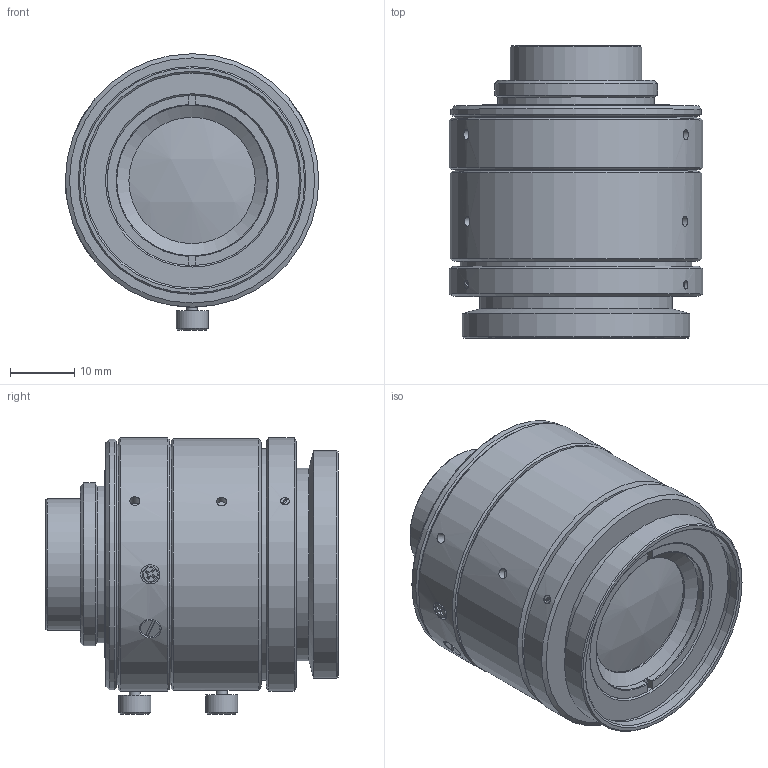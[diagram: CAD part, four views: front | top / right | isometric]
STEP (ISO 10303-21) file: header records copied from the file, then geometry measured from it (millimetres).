
FILE_DESCRIPTION( ( 'Unknown' ), '1' );
FILE_NAME( 'C:/Users/140166/Desktop/V1628-MPY_16mm.stp', 'Unknown', ( 'Unknown' ), ( 'Unknown' ), 'PSStep 17.0.49', 'Unknown', ' ' );
FILE_SCHEMA( ( 'AUTOMOTIVE_DESIGN { 1 0 10303 214 1 1 1 1 }' ) );
Length unit declared in the file: millimetre
Products named in the file (1): V1628-MPY_16mm
Bounding box: 39.53 x 45.55 x 43.1 mm (x, y, z)
Volume: 41888.9 mm3; surface area: 9384.3 mm2
Topology: 1 solids, 5 shells, 276 faces, 677 edges, 451 vertices
Faces by surface type: plane 164, cylinder 68, cone 40, torus 2, sphere 2
Full cylindrical faces by diameter (mm): 1.321 x6, 1.5 x1, 1.567 x5, 1.7 x6, 1.8 x3, 2 x1, 2.5 x2, 2.8 x1, 3 x5, 3.4 x1, 3.5 x3, 4.999 x2, 15.5 x1, 19.7 x1, 20.5 x1, 23.5 x1, 24.4 x1, 25.4 x1, 30 x1, 33.5 x1, 34 x1, 35.5 x1, 36.1 x1, 37.6 x2, 39 x1, 39.2 x1, 39.5 x2
Entity records: 10246 total; most frequent: CARTESIAN_POINT 1990, DIRECTION 1222, ORIENTED_EDGE 1114, EDGE_CURVE 557, AXIS2_PLACEMENT_3D 432, VERTEX_POINT 417, EDGE_LOOP 410, LINE 358
